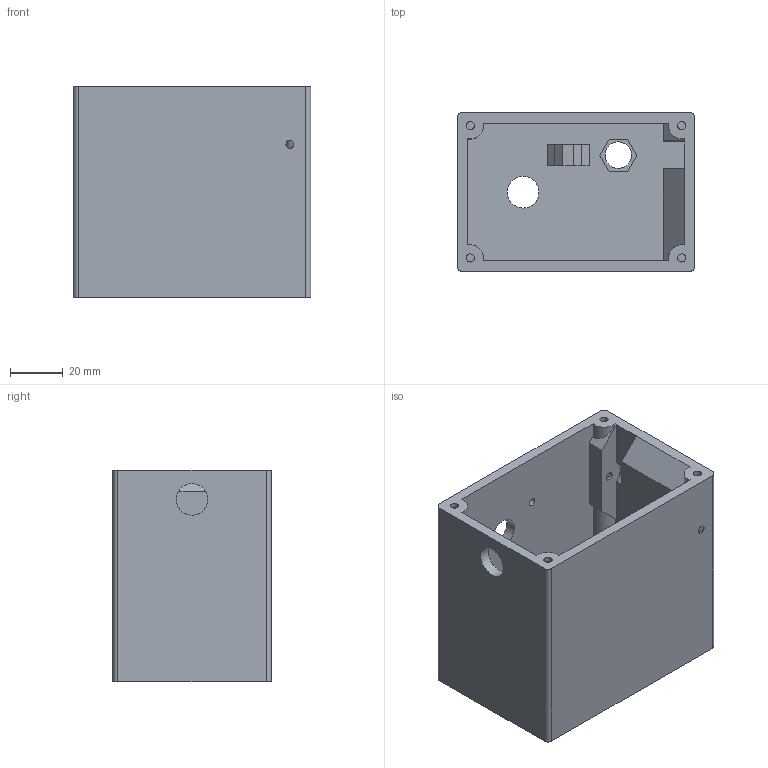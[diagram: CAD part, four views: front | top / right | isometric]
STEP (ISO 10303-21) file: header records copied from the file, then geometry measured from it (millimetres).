
FILE_DESCRIPTION(/* description */ ('Alibre Inc.'),/* implementation_level */ '2;1');
FILE_NAME(/* name */ 'export-92B54443-4509-4A16-9954-9FDE44B40AB2',/* time_stamp */ '2023-05-25T19:48:17+01:00',/* author */ (''),/* organization */ (''),/* preprocessor_version */ 'ST-DEVELOPER v17',/* originating_system */ 'Alibre',/* authorisation */ '');
FILE_SCHEMA (('AUTOMOTIVE_DESIGN'));
Length unit declared in the file: millimetre
Bounding box: 90 x 60 x 80 mm (x, y, z)
Volume: 124181.8 mm3; surface area: 55967.1 mm2
Topology: 1 solids, 1 shells, 106 faces, 270 edges, 185 vertices
Faces by surface type: plane 72, cylinder 34
Full cylindrical faces by diameter (mm): 3 x4, 3.1 x10, 3.3 x1, 10.05 x1, 12 x3
Entity records: 2964 total; most frequent: CARTESIAN_POINT 632, ORIENTED_EDGE 468, DIRECTION 389, EDGE_CURVE 234, VERTEX_POINT 168, VECTOR 167, LINE 167, EDGE_LOOP 158
